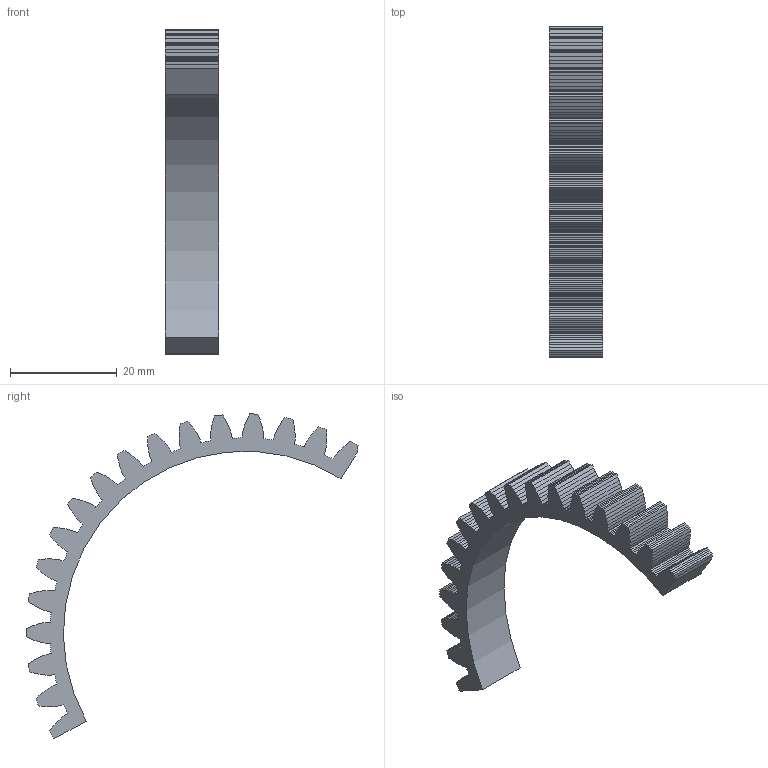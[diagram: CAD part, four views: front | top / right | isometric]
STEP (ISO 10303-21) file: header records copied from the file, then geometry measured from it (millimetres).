
FILE_DESCRIPTION(('Open CASCADE Model'),'2;1');
FILE_NAME('Open CASCADE Shape Model','2026-10-16T03:24:50',('Author'),( 'Open CASCADE'),'Open CASCADE STEP processor 7.9','Open CASCADE 7.9' ,'Unknown');
FILE_SCHEMA(('AUTOMOTIVE_DESIGN { 1 0 10303 214 1 1 1 1 }'));
Length unit declared in the file: millimetre
Products named in the file (1): Open CASCADE STEP translator 7.9 11
Bounding box: 10 x 62.15 x 60.71 mm (x, y, z)
Volume: 4668.5 mm3; surface area: 4048.2 mm2
Topology: 1 solids, 1 shells, 413 faces, 1233 edges, 822 vertices
Faces by surface type: plane 412, cylinder 1
Entity records: 29615 total; most frequent: CARTESIAN_POINT 4957, DIRECTION 4512, LINE 3679, VECTOR 3679, ORIENTED_EDGE 2466, PCURVE 2466, DEFINITIONAL_REPRESENTATION 2466, EDGE_CURVE 1233
